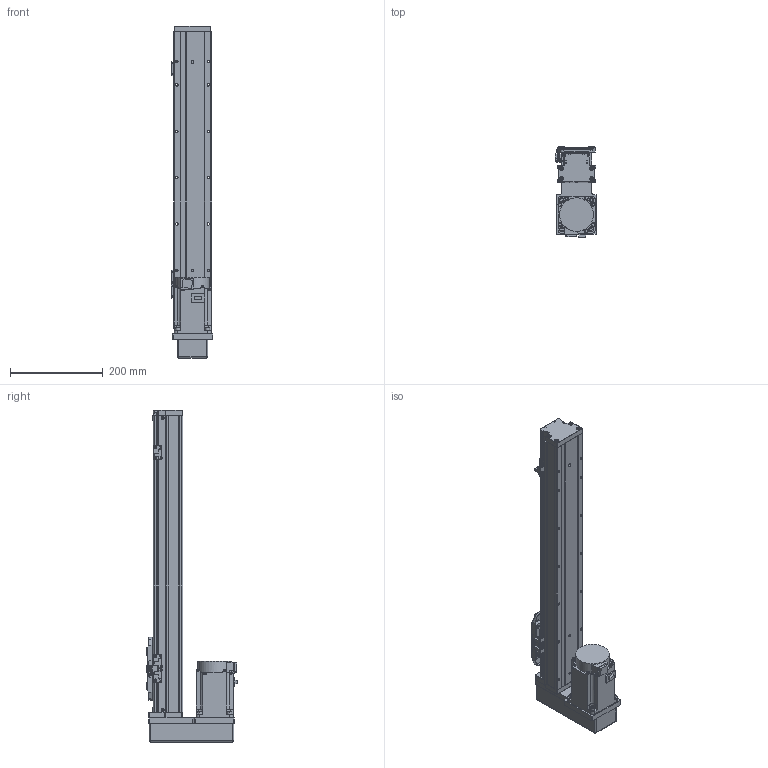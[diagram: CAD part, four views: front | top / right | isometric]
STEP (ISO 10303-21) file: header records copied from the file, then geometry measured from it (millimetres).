
FILE_DESCRIPTION (( 'STEP AP203' ), '1' );
FILE_NAME ('GTH8-450-BM-M75-C4.step', '2023-02-14T02:28:34', ( '微软用户' ), ( '微软中国' ), 'SwSTEP 2.0', 'SolidWorks 2020', '' );
FILE_SCHEMA (( 'CONFIG_CONTROL_DESIGN' ));
Length unit declared in the file: millimetre
Products named in the file (18): GBT 70.1-M4×16; CTHA86-035; GTH80-004; GTH80-028; hg-kn73j_-s100; GTH80-006; GTH50-024; GTH8-450-BM-M75-C4; GTH80-013; GTH50-023; GBT 70.3-M3℅6; GBT96.1-2002 3×0.8; GTH80-022; BTH-M3X5X6; GTH80-001_450; GBT 70.1-M3℅6; CTHA86-015-3_CTHA86-015-4; GTH80-003
Assembly tree (57 placements, depth 2):
  GTH8-450-BM-M75-C4
    GTH80-001_450
    GTH80-003
    GTH80-004
    GTH80-006
    GTH80-013
    GBT 70.3-M3℅6  x4
    GTH80-022
    GBT 70.1-M3℅6  x14
    GBT 70.1-M4×16  x8
    GTH80-028  x2
    GTH50-024  x3
    GTH50-023  x3
    GBT96.1-2002 3×0.8  x6
    BTH-M3X5X6  x8
    CTHA86-015-3_CTHA86-015-4
    CTHA86-035
    hg-kn73j_-s100
Bounding box: 89.4 x 195.3 x 716 mm (x, y, z)
Volume: 4317537.2 mm3; surface area: 455756.8 mm2
Topology: 59 solids, 59 shells, 2191 faces, 5082 edges, 3112 vertices
Faces by surface type: plane 1153, cylinder 623, cone 243, torus 158, sphere 12, bspline 2
Entity records: 39440 total; most frequent: CARTESIAN_POINT 6623, DIRECTION 6501, ORIENTED_EDGE 5974, EDGE_CURVE 2987, AXIS2_PLACEMENT_3D 2290, LINE 1921, VECTOR 1921, VERTEX_POINT 1887
